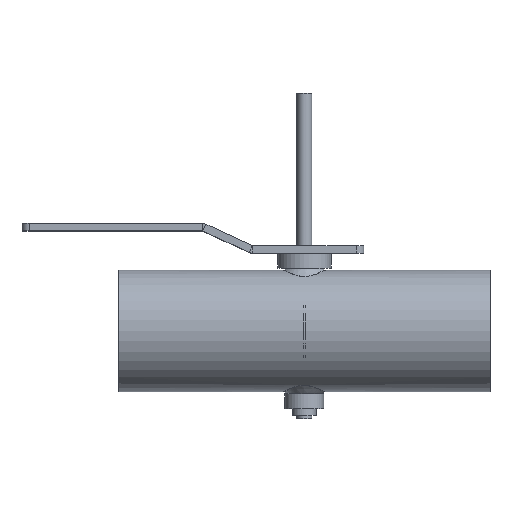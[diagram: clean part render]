
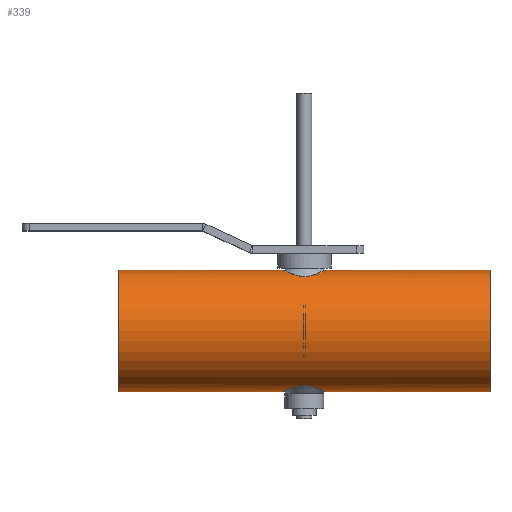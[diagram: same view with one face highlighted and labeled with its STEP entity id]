
A CAD part, top view. The second image highlights one B-rep face of the part: STEP entity #339.
In plain terms, the highlighted cylindrical face has radius 40.8 mm (diameter 81.6 mm), a full revolution.
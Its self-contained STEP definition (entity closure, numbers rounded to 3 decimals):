
#107=B_SPLINE_CURVE_WITH_KNOTS('',3,(#1849,#1850,#1851,#1852,#1853,#1854,
#1855,#1856,#1857,#1858,#1859,#1860,#1861,#1862,#1863,#1864,#1865,#1866,
#1867,#1868,#1869,#1870,#1871,#1872,#1873,#1874,#1875,#1876),.UNSPECIFIED.,
 .T.,.F.,(2,2,2,2,2,2,2,2,2,2,2,2,2,2,2,2),(-0.063,0.,0.125,
0.25,0.313,0.375,0.438,
0.5,0.563,0.625,0.75,0.813,0.875,
0.938,1.,1.125),.UNSPECIFIED.);
#108=B_SPLINE_CURVE_WITH_KNOTS('',3,(#1878,#1879,#1880,#1881,#1882,#1883,
#1884,#1885,#1886,#1887,#1888,#1889,#1890,#1891,#1892,#1893,#1894,#1895,
#1896,#1897,#1898,#1899,#1900,#1901,#1902,#1903,#1904,#1905,#1906,#1907),
 .UNSPECIFIED.,.T.,.F.,(2,2,2,2,2,2,2,2,2,2,2,2,2,2,2,2,2),(-0.063,
0.,0.062,0.125,0.188,0.25,0.375,0.438,0.5,0.563,
0.625,0.688,0.75,0.875,0.938,1.,1.063),.UNSPECIFIED.);
#278=CYLINDRICAL_SURFACE('',#1264,40.8);
#339=ADVANCED_FACE('',(#455,#456,#457,#458),#278,.T.);
#455=FACE_BOUND('',#591,.T.);
#456=FACE_BOUND('',#592,.T.);
#457=FACE_BOUND('',#593,.T.);
#458=FACE_BOUND('',#594,.T.);
#591=EDGE_LOOP('',(#831));
#592=EDGE_LOOP('',(#832));
#593=EDGE_LOOP('',(#833));
#594=EDGE_LOOP('',(#834));
#831=ORIENTED_EDGE('',*,*,#1073,.T.);
#832=ORIENTED_EDGE('',*,*,#1074,.T.);
#833=ORIENTED_EDGE('',*,*,#1069,.T.);
#834=ORIENTED_EDGE('',*,*,#1071,.T.);
#949=VERTEX_POINT('',#1840);
#951=VERTEX_POINT('',#1845);
#953=VERTEX_POINT('',#1877);
#954=VERTEX_POINT('',#1908);
#1069=EDGE_CURVE('',#949,#949,#1141,.T.);
#1071=EDGE_CURVE('',#951,#951,#1143,.T.);
#1073=EDGE_CURVE('',#953,#953,#107,.T.);
#1074=EDGE_CURVE('',#954,#954,#108,.T.);
#1141=CIRCLE('',#1258,40.8);
#1143=CIRCLE('',#1261,40.8);
#1258=AXIS2_PLACEMENT_3D('',#1839,#1542,#1543);
#1261=AXIS2_PLACEMENT_3D('',#1844,#1548,#1549);
#1264=AXIS2_PLACEMENT_3D('',#1909,#1554,#1555);
#1542=DIRECTION('',(-1.,0.,0.));
#1543=DIRECTION('',(0.,0.,1.));
#1548=DIRECTION('',(1.,0.,0.));
#1549=DIRECTION('',(0.,0.,-1.));
#1554=DIRECTION('',(1.,0.,0.));
#1555=DIRECTION('',(0.,0.,-1.));
#1839=CARTESIAN_POINT('',(125.,1.7,125.));
#1840=CARTESIAN_POINT('',(125.,1.7,165.8));
#1844=CARTESIAN_POINT('',(-125.,1.7,125.));
#1845=CARTESIAN_POINT('',(-125.,1.7,84.2));
#1849=CARTESIAN_POINT('',(-5.395,-35.522,108.233));
#1850=CARTESIAN_POINT('',(-10.314,-37.121,112.136));
#1851=CARTESIAN_POINT('',(-12.526,-38.286,115.893));
#1852=CARTESIAN_POINT('',(-14.573,-39.3,124.113));
#1853=CARTESIAN_POINT('',(-14.278,-39.137,128.606));
#1854=CARTESIAN_POINT('',(-11.972,-38.029,134.501));
#1855=CARTESIAN_POINT('',(-10.92,-37.535,136.319));
#1856=CARTESIAN_POINT('',(-8.287,-36.464,139.527));
#1857=CARTESIAN_POINT('',(-6.711,-35.88,140.922));
#1858=CARTESIAN_POINT('',(-2.997,-34.995,142.868));
#1859=CARTESIAN_POINT('',(-0.776,-34.74,143.354));
#1860=CARTESIAN_POINT('',(3.453,-35.035,142.757));
#1861=CARTESIAN_POINT('',(5.401,-35.524,141.764));
#1862=CARTESIAN_POINT('',(8.676,-36.588,139.164));
#1863=CARTESIAN_POINT('',(10.013,-37.153,137.588));
#1864=CARTESIAN_POINT('',(12.212,-38.133,134.022));
#1865=CARTESIAN_POINT('',(13.03,-38.535,132.078));
#1866=CARTESIAN_POINT('',(14.58,-39.303,125.868));
#1867=CARTESIAN_POINT('',(14.29,-39.142,121.43));
#1868=CARTESIAN_POINT('',(11.972,-38.029,115.496));
#1869=CARTESIAN_POINT('',(10.935,-37.541,113.701));
#1870=CARTESIAN_POINT('',(8.286,-36.463,110.47));
#1871=CARTESIAN_POINT('',(6.716,-35.882,109.082));
#1872=CARTESIAN_POINT('',(2.997,-34.995,107.132));
#1873=CARTESIAN_POINT('',(0.781,-34.74,106.646));
#1874=CARTESIAN_POINT('',(-3.455,-35.035,107.243));
#1875=CARTESIAN_POINT('',(-5.395,-35.522,108.233));
#1876=CARTESIAN_POINT('',(-10.314,-37.121,112.136));
#1877=CARTESIAN_POINT('',(-7.035,-36.055,109.534));
#1878=CARTESIAN_POINT('',(-8.677,39.989,110.837));
#1879=CARTESIAN_POINT('',(-5.393,38.921,108.231));
#1880=CARTESIAN_POINT('',(-3.45,38.434,107.241));
#1881=CARTESIAN_POINT('',(0.792,38.14,106.646));
#1882=CARTESIAN_POINT('',(3.004,38.396,107.134));
#1883=CARTESIAN_POINT('',(6.717,39.282,109.083));
#1884=CARTESIAN_POINT('',(8.288,39.864,110.473));
#1885=CARTESIAN_POINT('',(10.931,40.94,113.696));
#1886=CARTESIAN_POINT('',(11.98,41.432,115.513));
#1887=CARTESIAN_POINT('',(14.288,42.542,121.434));
#1888=CARTESIAN_POINT('',(14.582,42.704,125.865));
#1889=CARTESIAN_POINT('',(13.027,41.934,132.088));
#1890=CARTESIAN_POINT('',(12.211,41.533,134.023));
#1891=CARTESIAN_POINT('',(10.01,40.552,137.592));
#1892=CARTESIAN_POINT('',(8.677,39.989,139.161));
#1893=CARTESIAN_POINT('',(5.414,38.928,141.755));
#1894=CARTESIAN_POINT('',(3.469,38.437,142.752));
#1895=CARTESIAN_POINT('',(-0.771,38.14,143.355));
#1896=CARTESIAN_POINT('',(-2.988,38.393,142.871));
#1897=CARTESIAN_POINT('',(-6.705,39.278,140.927));
#1898=CARTESIAN_POINT('',(-8.278,39.86,139.536));
#1899=CARTESIAN_POINT('',(-10.923,40.936,136.316));
#1900=CARTESIAN_POINT('',(-11.974,41.429,134.5));
#1901=CARTESIAN_POINT('',(-14.288,42.542,128.573));
#1902=CARTESIAN_POINT('',(-14.582,42.704,124.14));
#1903=CARTESIAN_POINT('',(-13.03,41.935,117.919));
#1904=CARTESIAN_POINT('',(-12.213,41.533,115.98));
#1905=CARTESIAN_POINT('',(-10.013,40.553,112.411));
#1906=CARTESIAN_POINT('',(-8.677,39.989,110.837));
#1907=CARTESIAN_POINT('',(-5.393,38.921,108.231));
#1908=CARTESIAN_POINT('',(-7.035,39.455,109.534));
#1909=CARTESIAN_POINT('',(-125.,1.7,125.));
